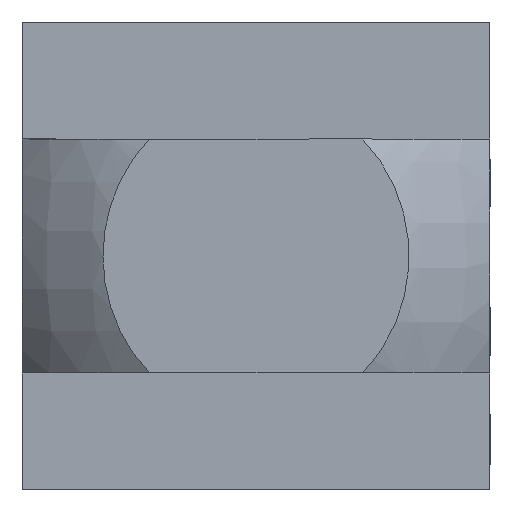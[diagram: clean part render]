
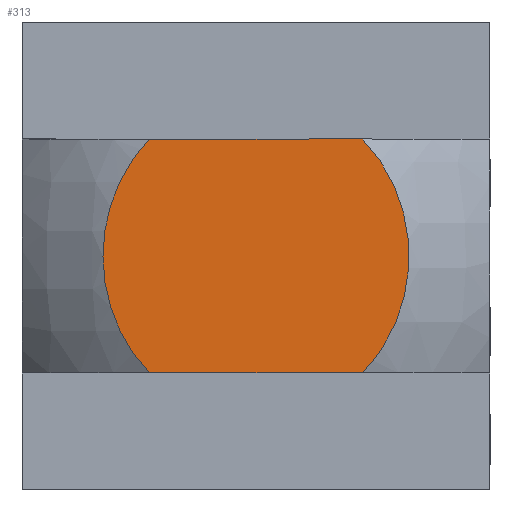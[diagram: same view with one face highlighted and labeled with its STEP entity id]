
A CAD part, left-side view. The second image highlights one B-rep face of the part: STEP entity #313.
In plain terms, the highlighted planar face has unit normal (-1, 0, 0).
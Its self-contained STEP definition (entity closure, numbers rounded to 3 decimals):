
#66 = ORIENTED_EDGE ( 'NONE', *, *, #67, .F. ) ;
#67 = EDGE_CURVE ( 'NONE', #68, #321, #974, .T. ) ;
#68 = VERTEX_POINT ( 'NONE', #910 ) ;
#69 = ORIENTED_EDGE ( 'NONE', *, *, #70, .F. ) ;
#70 = EDGE_CURVE ( 'NONE', #318, #68, #909, .T. ) ;
#313 = ADVANCED_FACE ( 'NONE', ( #617 ), #614, .T. ) ;
#314 = EDGE_LOOP ( 'NONE', ( #315, #319, #66, #69 ) ) ;
#315 = ORIENTED_EDGE ( 'NONE', *, *, #316, .F. ) ;
#316 = EDGE_CURVE ( 'NONE', #317, #318, #675, .T. ) ;
#317 = VERTEX_POINT ( 'NONE', #674 ) ;
#318 = VERTEX_POINT ( 'NONE', #676 ) ;
#319 = ORIENTED_EDGE ( 'NONE', *, *, #320, .T. ) ;
#320 = EDGE_CURVE ( 'NONE', #317, #321, #648, .T. ) ;
#321 = VERTEX_POINT ( 'NONE', #668 ) ;
#614 = PLANE ( 'NONE',  #616 ) ;
#615 = CARTESIAN_POINT ( 'NONE',  ( -26., 10., -10. ) ) ;
#616 = AXIS2_PLACEMENT_3D ( 'NONE', #615, #678, #677 ) ;
#617 = FACE_OUTER_BOUND ( 'NONE', #314, .T. ) ;
#647 = CARTESIAN_POINT ( 'NONE',  ( -26., -10., 5. ) ) ;
#648 = LINE ( 'NONE', #647, #670 ) ;
#649 = CARTESIAN_POINT ( 'NONE',  ( -26., -4.549, -5. ) ) ;
#650 = CARTESIAN_POINT ( 'NONE',  ( -26., -4.867, -4.671 ) ) ;
#651 = CARTESIAN_POINT ( 'NONE',  ( -26., -5.151, -4.312 ) ) ;
#652 = CARTESIAN_POINT ( 'NONE',  ( -26., -5.525, -3.728 ) ) ;
#653 = CARTESIAN_POINT ( 'NONE',  ( -26., -5.641, -3.527 ) ) ;
#654 = CARTESIAN_POINT ( 'NONE',  ( -26., -5.85, -3.118 ) ) ;
#655 = CARTESIAN_POINT ( 'NONE',  ( -26., -5.944, -2.909 ) ) ;
#656 = CARTESIAN_POINT ( 'NONE',  ( -26., -6.196, -2.271 ) ) ;
#657 = CARTESIAN_POINT ( 'NONE',  ( -26., -6.325, -1.829 ) ) ;
#658 = CARTESIAN_POINT ( 'NONE',  ( -26., -6.498, -0.919 ) ) ;
#659 = CARTESIAN_POINT ( 'NONE',  ( -26., -6.54, -0.463 ) ) ;
#660 = CARTESIAN_POINT ( 'NONE',  ( -26., -6.541, 0.224 ) ) ;
#661 = CARTESIAN_POINT ( 'NONE',  ( -26., -6.53, 0.453 ) ) ;
#662 = CARTESIAN_POINT ( 'NONE',  ( -26., -6.487, 0.912 ) ) ;
#663 = CARTESIAN_POINT ( 'NONE',  ( -26., -6.455, 1.143 ) ) ;
#664 = CARTESIAN_POINT ( 'NONE',  ( -26., -6.327, 1.822 ) ) ;
#665 = CARTESIAN_POINT ( 'NONE',  ( -26., -6.2, 2.262 ) ) ;
#666 = CARTESIAN_POINT ( 'NONE',  ( -26., -5.862, 3.117 ) ) ;
#667 = CARTESIAN_POINT ( 'NONE',  ( -26., -5.65, 3.533 ) ) ;
#668 = CARTESIAN_POINT ( 'NONE',  ( -26., 4.549, 5. ) ) ;
#669 = DIRECTION ( 'NONE',  ( 0., 1., 0. ) ) ;
#670 = VECTOR ( 'NONE', #669, 1000. ) ;
#671 = CARTESIAN_POINT ( 'NONE',  ( -26., -5.155, 4.306 ) ) ;
#672 = CARTESIAN_POINT ( 'NONE',  ( -26., -4.872, 4.667 ) ) ;
#673 = CARTESIAN_POINT ( 'NONE',  ( -26., -4.549, 5. ) ) ;
#674 = CARTESIAN_POINT ( 'NONE',  ( -26., -4.549, 5. ) ) ;
#675 = B_SPLINE_CURVE_WITH_KNOTS ( 'NONE', 3,
 ( #673, #672, #671, #667, #666, #665, #664, #663, #662, #661, #660, #659, #658, #657, #656, #655, #654, #653, #652, #651, #650, #649 ),
 .UNSPECIFIED., .F., .F.,
 ( 4, 2, 2, 2, 2, 2, 2, 2, 2, 2, 4 ),
 ( 0.016, 0.017, 0.018, 0.02, 0.02, 0.021, 0.023, 0.024, 0.025, 0.025, 0.027 ),
 .UNSPECIFIED. ) ;
#676 = CARTESIAN_POINT ( 'NONE',  ( -26., -4.549, -5. ) ) ;
#677 = DIRECTION ( 'NONE',  ( 0., 0., 1. ) ) ;
#678 = DIRECTION ( 'NONE',  ( -1., 0., 0. ) ) ;
#797 = CARTESIAN_POINT ( 'NONE',  ( -26., 6.187, 2.264 ) ) ;
#798 = CARTESIAN_POINT ( 'NONE',  ( -26., 6.315, 1.822 ) ) ;
#799 = CARTESIAN_POINT ( 'NONE',  ( -26., 6.112, 2.484 ) ) ;
#800 = CARTESIAN_POINT ( 'NONE',  ( -26., 4.867, 4.672 ) ) ;
#801 = CARTESIAN_POINT ( 'NONE',  ( -26., 5.156, 4.305 ) ) ;
#802 = CARTESIAN_POINT ( 'NONE',  ( -26., 5.65, 3.532 ) ) ;
#803 = CARTESIAN_POINT ( 'NONE',  ( -26., 5.858, 3.125 ) ) ;
#804 = CARTESIAN_POINT ( 'NONE',  ( -26., 4.549, 5. ) ) ;
#909 = LINE ( 'NONE', #922, #921 ) ;
#910 = CARTESIAN_POINT ( 'NONE',  ( -26., 4.549, -5. ) ) ;
#920 = DIRECTION ( 'NONE',  ( 0., 1., 0. ) ) ;
#921 = VECTOR ( 'NONE', #920, 1000. ) ;
#922 = CARTESIAN_POINT ( 'NONE',  ( -26., -10., -5. ) ) ;
#973 = CARTESIAN_POINT ( 'NONE',  ( -26., 4.549, -5. ) ) ;
#974 = B_SPLINE_CURVE_WITH_KNOTS ( 'NONE', 3,
 ( #973, #987, #986, #985, #984, #983, #978, #977, #976, #975, #982, #981, #980, #979, #798, #797, #799, #803, #802, #801, #800, #804 ),
 .UNSPECIFIED., .F., .F.,
 ( 4, 2, 2, 2, 2, 2, 2, 2, 2, 2, 4 ),
 ( 0.037, 0.038, 0.04, 0.04, 0.041, 0.042, 0.044, 0.044, 0.045, 0.046, 0.048 ),
 .UNSPECIFIED. ) ;
#975 = CARTESIAN_POINT ( 'NONE',  ( -26., 6.498, -0.917 ) ) ;
#976 = CARTESIAN_POINT ( 'NONE',  ( -26., 6.369, -1.597 ) ) ;
#977 = CARTESIAN_POINT ( 'NONE',  ( -26., 6.315, -1.823 ) ) ;
#978 = CARTESIAN_POINT ( 'NONE',  ( -26., 6.187, -2.265 ) ) ;
#979 = CARTESIAN_POINT ( 'NONE',  ( -26., 6.369, 1.599 ) ) ;
#980 = CARTESIAN_POINT ( 'NONE',  ( -26., 6.497, 0.925 ) ) ;
#981 = CARTESIAN_POINT ( 'NONE',  ( -26., 6.54, 0.468 ) ) ;
#982 = CARTESIAN_POINT ( 'NONE',  ( -26., 6.541, -0.458 ) ) ;
#983 = CARTESIAN_POINT ( 'NONE',  ( -26., 6.113, -2.482 ) ) ;
#984 = CARTESIAN_POINT ( 'NONE',  ( -26., 5.86, -3.121 ) ) ;
#985 = CARTESIAN_POINT ( 'NONE',  ( -26., 5.651, -3.532 ) ) ;
#986 = CARTESIAN_POINT ( 'NONE',  ( -26., 5.152, -4.31 ) ) ;
#987 = CARTESIAN_POINT ( 'NONE',  ( -26., 4.868, -4.67 ) ) ;
